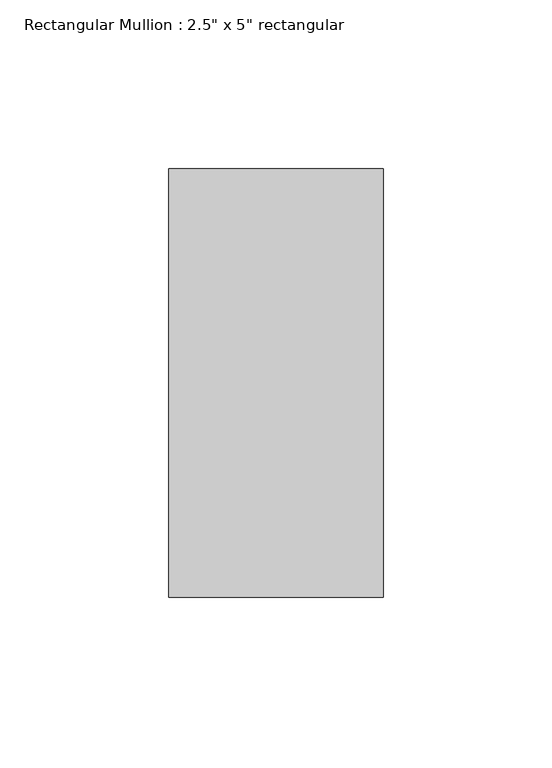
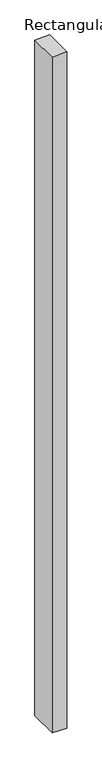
"""IFC4 building model written with IfcOpenShell, lengths in millimetres: member geometry."""

from ifc_helpers import new_model, si_unit, frame, origin, place, context, project, spatial, polyline, outline, extrude, source, transform, mapped, element, save


def member_6226d3c8(model_context):
    return source(origin(), model_context, "Body", "SweptSolid", [
        extrude(outline(polyline([(0.0, 0.0), (-1.1067127, -63.5), (-3055.6283542, -63.5), (-3056.8729603, 0.0), (0.0, 0.0)])), frame((0.0, -63.5, 0.0), z_axis=(0.0, 1.0, 0.0), x_axis=(0.0, 0.0, 1.0)), (0.0, 0.0, 1.0), 127.0),
    ])


if __name__ == "__main__":
    model = new_model("IFC4")
    model_context = context("Model", 3, world=origin())
    ifc_project = project(units=[si_unit("LENGTHUNIT", "METRE", prefix="MILLI")], contexts=[model_context])
    site = spatial("IfcSite", under=ifc_project)
    building = spatial("IfcBuilding", under=site)
    placement = place(None, origin())
    member_shape = member_6226d3c8(model_context)
    element("IfcMember", 1, ObjectType="Rectangular Mullion : 2.5\" x 5\" rectangular", at=placement, inside=building, context=model_context, shape_type="MappedRepresentation", body=[
        mapped(member_shape, transform((0.0, 0.0, 0.0), x_axis=(1.0, 0.0, 0.0), y_axis=(0.0, 1.0, 0.0), z_axis=(0.0, 0.0, 1.0))),
    ])
    save(model, "model.ifc")
